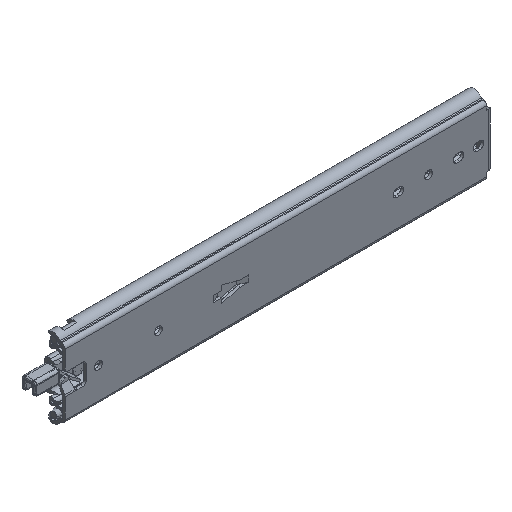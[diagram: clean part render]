
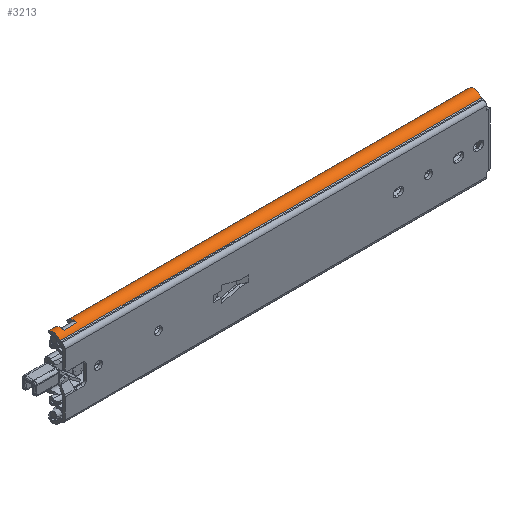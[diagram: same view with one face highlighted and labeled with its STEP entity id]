
A CAD part, isometric view. The second image highlights one B-rep face of the part: STEP entity #3213.
In plain terms, the highlighted cylindrical face has radius 7.25 mm (diameter 14.5 mm), a partial arc.
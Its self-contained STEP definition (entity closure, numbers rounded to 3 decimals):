
#5=CARTESIAN_POINT('',(0.,11.5,30.4));
#6=DIRECTION('',(1.,0.,0.));
#7=DIRECTION('',(0.,0.632,0.775));
#8=AXIS2_PLACEMENT_3D('',#5,#6,#7);
#827=CARTESIAN_POINT('',(401.4,11.5,30.4));
#828=DIRECTION('',(1.,0.,0.));
#829=DIRECTION('',(0.,0.38,0.925));
#830=AXIS2_PLACEMENT_3D('',#827,#828,#829);
#876=CARTESIAN_POINT('',(1.401,17.079,35.031));
#877=CARTESIAN_POINT('',(0.932,16.779,35.392));
#878=CARTESIAN_POINT('',(0.465,16.446,35.722));
#879=CARTESIAN_POINT('',(0.,16.079,36.021));
#881=DIRECTION('',(1.,0.,0.));
#882=VECTOR('',#881,6.099);
#883=CARTESIAN_POINT('',(1.401,17.079,35.031));
#884=LINE('',#883,#882);
#885=CARTESIAN_POINT('',(7.5,11.5,30.4));
#886=DIRECTION('',(1.,0.,0.));
#887=DIRECTION('',(0.,0.769,0.639));
#888=AXIS2_PLACEMENT_3D('',#885,#886,#887);
#890=CARTESIAN_POINT('',(19.5,11.5,30.4));
#891=DIRECTION('',(1.,0.,0.));
#892=DIRECTION('',(0.,0.769,0.639));
#893=AXIS2_PLACEMENT_3D('',#890,#891,#892);
#895=DIRECTION('',(1.,0.,0.));
#896=VECTOR('',#895,380.565);
#897=CARTESIAN_POINT('',(19.5,17.079,35.031));
#898=LINE('',#897,#896);
#899=CARTESIAN_POINT('',(401.4,14.255,37.106));
#900=CARTESIAN_POINT('',(401.4,14.607,36.962));
#901=CARTESIAN_POINT('',(401.332,15.25,36.633));
#902=CARTESIAN_POINT('',(401.043,16.045,36.073));
#903=CARTESIAN_POINT('',(400.595,16.664,35.507));
#904=CARTESIAN_POINT('',(400.248,16.953,35.182));
#905=CARTESIAN_POINT('',(400.065,17.079,35.031));
#907=DIRECTION('',(1.,0.,0.));
#908=VECTOR('',#907,401.4);
#909=CARTESIAN_POINT('',(0.,4.916,33.436));
#910=LINE('',#909,#908);
#1219=DIRECTION('',(1.,0.,0.));
#1220=VECTOR('',#1219,12.);
#1221=CARTESIAN_POINT('',(7.5,8.515,37.007));
#1222=LINE('',#1221,#1220);
#1674=CARTESIAN_POINT('',(0.,4.916,33.436));
#1676=VERTEX_POINT('',#1674);
#1698=CARTESIAN_POINT('',(7.5,17.079,35.031));
#1700=VERTEX_POINT('',#1698);
#1702=CARTESIAN_POINT('',(19.5,17.079,35.031));
#1704=VERTEX_POINT('',#1702);
#1749=CARTESIAN_POINT('',(7.5,8.515,37.007));
#1750=VERTEX_POINT('',#1749);
#1751=CARTESIAN_POINT('',(19.5,8.515,37.007));
#1752=VERTEX_POINT('',#1751);
#1990=CARTESIAN_POINT('',(401.4,4.916,33.436));
#1991=VERTEX_POINT('',#1990);
#2048=VERTEX_POINT('',#899);
#2049=VERTEX_POINT('',#905);
#2072=CARTESIAN_POINT('',(1.401,17.079,35.031));
#2073=VERTEX_POINT('',#2072);
#2074=VERTEX_POINT('',#879);
#3190=CARTESIAN_POINT('',(0.,11.5,30.4));
#3191=DIRECTION('',(1.,0.,0.));
#3192=DIRECTION('',(0.,-1.,0.));
#3193=AXIS2_PLACEMENT_3D('',#3190,#3191,#3192);
#3194=CYLINDRICAL_SURFACE('',#3193,7.25);
#3195=ORIENTED_EDGE('',*,*,#2222,.F.);
#3197=ORIENTED_EDGE('',*,*,#3196,.T.);
#3199=ORIENTED_EDGE('',*,*,#3198,.T.);
#3201=ORIENTED_EDGE('',*,*,#3200,.T.);
#3203=ORIENTED_EDGE('',*,*,#3202,.F.);
#3205=ORIENTED_EDGE('',*,*,#3204,.T.);
#3206=ORIENTED_EDGE('',*,*,#3177,.F.);
#3207=ORIENTED_EDGE('',*,*,#3138,.T.);
#3209=ORIENTED_EDGE('',*,*,#3208,.F.);
#3210=ORIENTED_EDGE('',*,*,#2144,.F.);
#3211=EDGE_LOOP('',(#3195,#3197,#3199,#3201,#3203,#3205,#3206,#3207,#3209,
#3210));
#3212=FACE_OUTER_BOUND('',#3211,.F.);
#9=CIRCLE('',#8,7.25);
#831=CIRCLE('',#830,7.25);
#880=B_SPLINE_CURVE_WITH_KNOTS('',3,(#876,#877,#878,#879),.UNSPECIFIED.,.F.,.F.,
(4,4),(0.,1.),.UNSPECIFIED.);
#889=CIRCLE('',#888,7.25);
#894=CIRCLE('',#893,7.25);
#906=B_SPLINE_CURVE_WITH_KNOTS('',3,(#899,#900,#901,#902,#903,#904,#905),
.UNSPECIFIED.,.F.,.F.,(4,1,1,1,4),(0.,0.25,0.5,0.75,1.),
.UNSPECIFIED.);
#2144=EDGE_CURVE('',#2074,#1676,#9,.T.);
#2222=EDGE_CURVE('',#2073,#2074,#880,.T.);
#3138=EDGE_CURVE('',#2048,#1991,#831,.T.);
#3177=EDGE_CURVE('',#2048,#2049,#906,.T.);
#3196=EDGE_CURVE('',#2073,#1700,#884,.T.);
#3198=EDGE_CURVE('',#1700,#1750,#889,.T.);
#3200=EDGE_CURVE('',#1750,#1752,#1222,.T.);
#3202=EDGE_CURVE('',#1704,#1752,#894,.T.);
#3204=EDGE_CURVE('',#1704,#2049,#898,.T.);
#3208=EDGE_CURVE('',#1676,#1991,#910,.T.);
#3213=ADVANCED_FACE('',(#3212),#3194,.T.);
